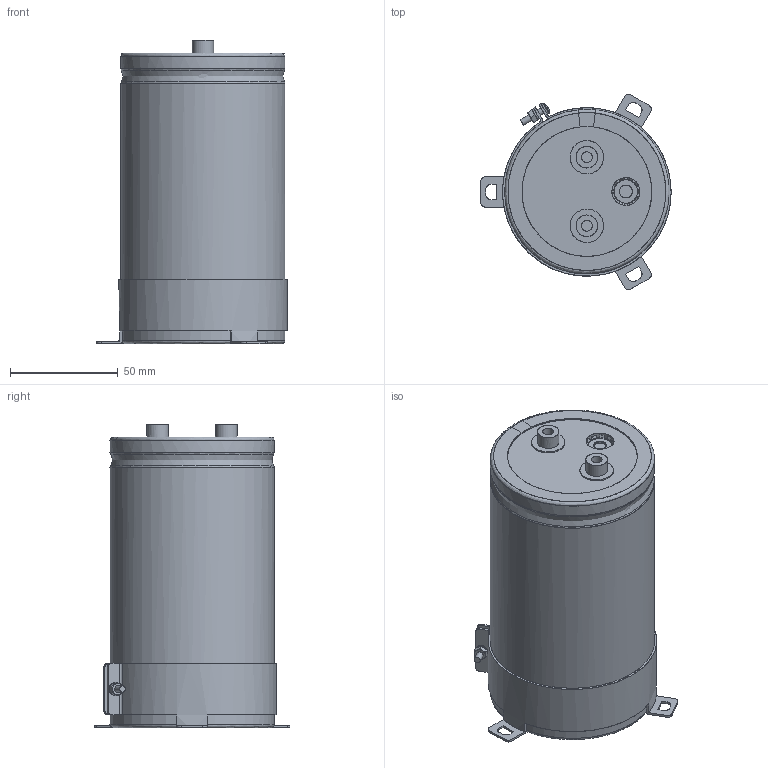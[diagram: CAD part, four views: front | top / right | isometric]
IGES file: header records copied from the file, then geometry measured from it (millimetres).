
Start section: JAMA-IS VERSION  1.0
Bounding box: 88.3 x 90.75 x 141 mm (x, y, z)
Surface area: 127153.7 mm2 (no closed solid volume)
Topology: 0 solids, 0 shells, 259 faces, 4448 edges, 4417 vertices
Faces by surface type: bspline 259
